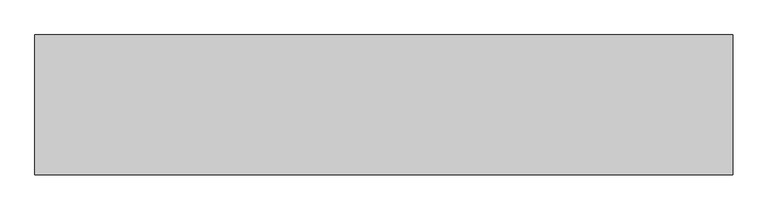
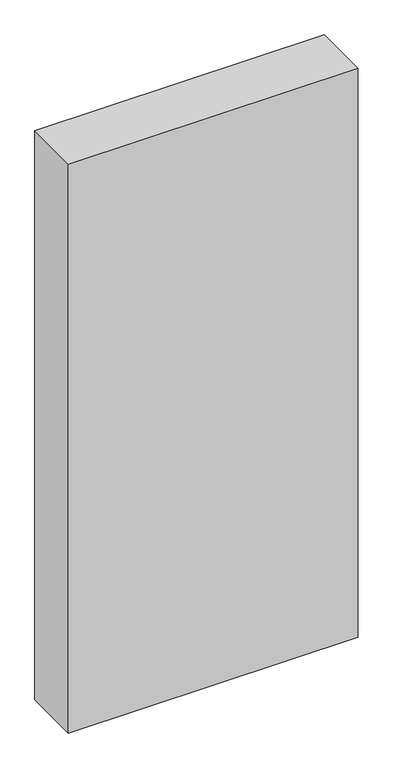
"""IFC4 building model written with IfcOpenShell, lengths in millimetres: proxy geometry."""

from ifc_helpers import new_model, si_unit, origin, origin_with_axes, place, context, project, spatial, polyline, outline, extrude, source, transform, mapped, element, save


def generic_models_f6b59b49(model_context):
    return source(origin(), model_context, "Body", "SweptSolid", [
        extrude(outline(polyline([(13700.6781692, -100.0), (12700.6781692, -100.0), (12700.6781692, 100.0), (13700.6781692, 100.0), (13700.6781692, -100.0)])), origin_with_axes(), (0.0, 0.0, 1.0), 2075.0),
    ])


if __name__ == "__main__":
    model = new_model("IFC4")
    model_context = context("Model", 3, world=origin())
    ifc_project = project(units=[si_unit("LENGTHUNIT", "METRE", prefix="MILLI")], contexts=[model_context])
    site = spatial("IfcSite", under=ifc_project)
    building = spatial("IfcBuilding", under=site)
    placement = place(None, origin())
    generic_models_shape = generic_models_f6b59b49(model_context)
    element("IfcBuildingElementProxy", 1, Name="Generic Models", at=placement, inside=building, context=model_context, shape_type="MappedRepresentation", body=[
        mapped(generic_models_shape, transform((0.0, 0.0, 0.0), x_axis=(1.0, 0.0, 0.0), y_axis=(0.0, 1.0, 0.0), z_axis=(0.0, 0.0, 1.0))),
    ])
    save(model, "model.ifc")
